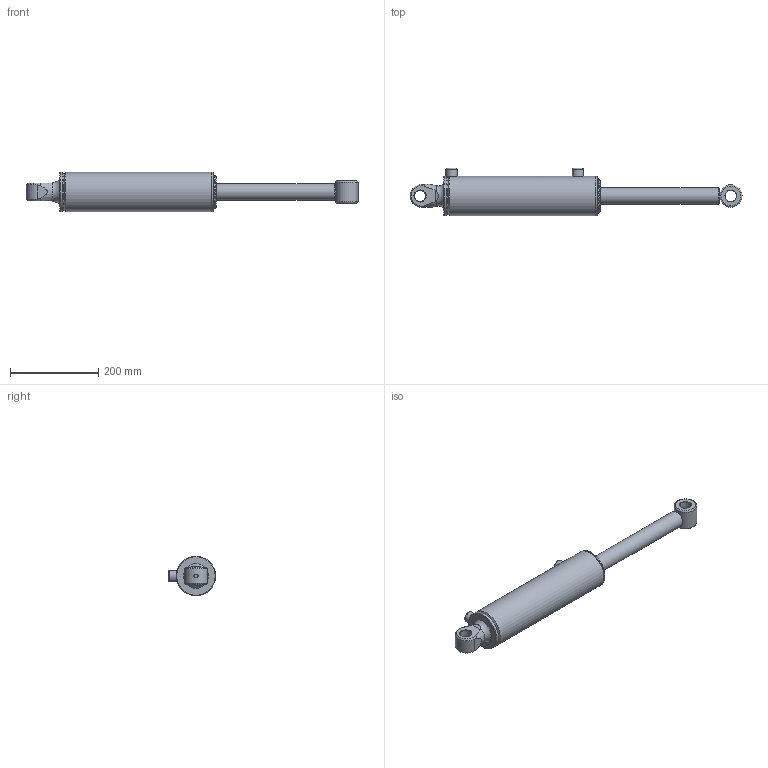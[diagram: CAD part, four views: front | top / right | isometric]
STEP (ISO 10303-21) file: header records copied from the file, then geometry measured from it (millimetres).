
FILE_DESCRIPTION(/* description */ ('Alibre Inc.'),/* implementation_level */ '2;1');
FILE_NAME(/* name */ 'export0',/* time_stamp */ '2016-08-16T10:00:04+12:00',/* author */ (''),/* organization */ (''),/* preprocessor_version */ 'ST-DEVELOPER v14',/* originating_system */ 'Alibre',/* authorisation */ '');
FILE_SCHEMA (('AUTOMOTIVE_DESIGN'));
Length unit declared in the file: centimetre
Bounding box: 751.13 x 106.9 x 88.9 mm (x, y, z)
Volume: 1468265.4 mm3; surface area: 335589.9 mm2
Topology: 12 solids, 12 shells, 157 faces, 332 edges, 209 vertices
Faces by surface type: cylinder 61, plane 57, cone 23, torus 13, sphere 2, bspline 1
Full cylindrical faces by diameter (mm): 7 x1, 8.3 x2, 8.8 x1, 9.525 x2, 15.25 x2, 23 x1, 23.622 x1, 25 x2, 25.4 x2, 25.451 x1, 38.1 x2, 38.18 x2, 44.45 x1, 46.9 x2, 47.62 x2, 50.8 x1, 60.33 x1, 69.2 x1, 70.36 x1, 71.6 x2, 72.57 x2, 72.87 x1, 74.83 x2, 76.09 x2, 76.1 x1, 76.2 x2, 79.4 x1, 88.9 x3
Entity records: 4365 total; most frequent: CARTESIAN_POINT 1210, DIRECTION 599, ORIENTED_EDGE 456, AXIS2_PLACEMENT_3D 310, FACE_BOUND 271, EDGE_LOOP 269, EDGE_CURVE 228, VERTEX_POINT 191
